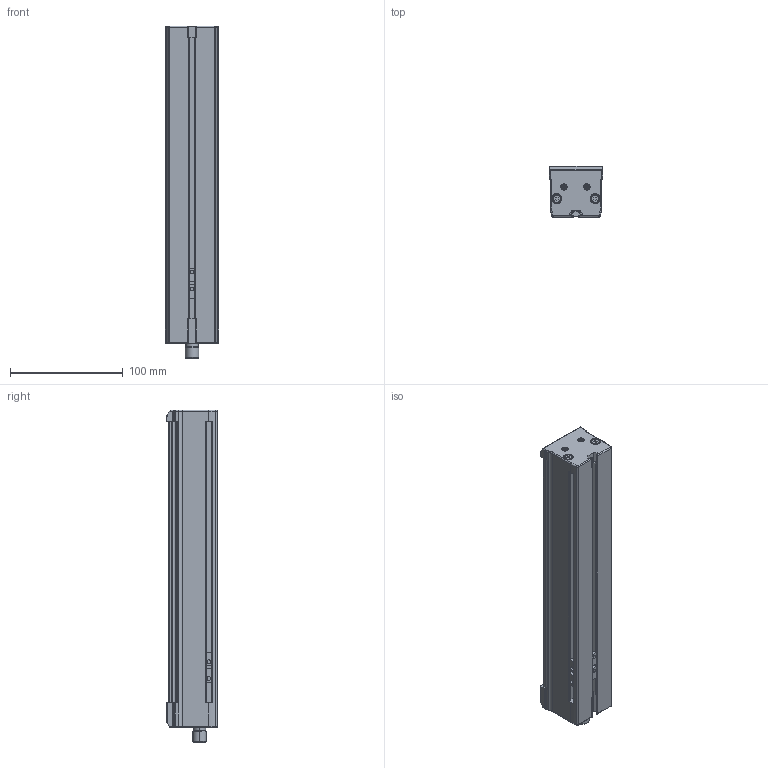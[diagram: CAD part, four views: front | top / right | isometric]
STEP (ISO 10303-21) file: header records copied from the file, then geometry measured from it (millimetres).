
FILE_DESCRIPTION (( 'STEP AP214' ), '1' );
FILE_NAME ('EBAR-HPS-250-xxx-UN_CLIENT.STEP', '2025-11-18T11:55:36', ( '' ), ( '' ), 'SwSTEP 2.0', 'SolidWorks 2025', '' );
FILE_SCHEMA (( 'AUTOMOTIVE_DESIGN' ));
Length unit declared in the file: millimetre
Products named in the file (3): EBAR-HPS-250-xxx-UN_CLIENT; EBAR-HPS-xxx-xxx-xx_CLIENT_250; M4 T-Slot Nut
Assembly tree (7 placements, depth 2):
  EBAR-HPS-250-xxx-UN_CLIENT
    EBAR-HPS-xxx-xxx-xx_CLIENT_250
    M4 T-Slot Nut  x6
Bounding box: 47.63 x 45 x 295.06 mm (x, y, z)
Volume: 487228.5 mm3; surface area: 73230.1 mm2
Topology: 7 solids, 7 shells, 878 faces, 2288 edges, 1484 vertices
Faces by surface type: plane 406, cylinder 246, bspline 140, torus 62, cone 14, sphere 10
Entity records: 29187 total; most frequent: CARTESIAN_POINT 10265, ORIENTED_EDGE 4098, DIRECTION 3542, EDGE_CURVE 2049, VERTEX_POINT 1329, AXIS2_PLACEMENT_3D 1210, VECTOR 1122, LINE 1122
